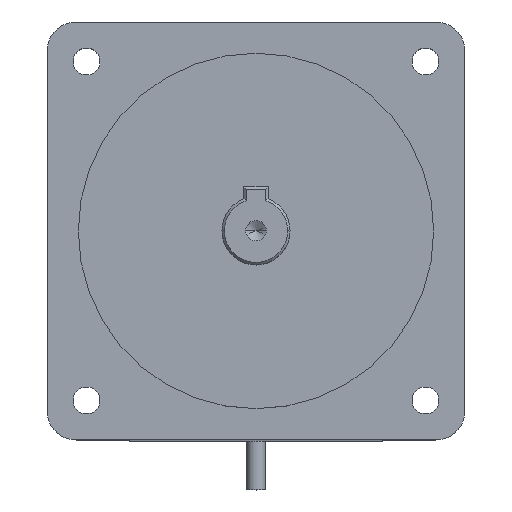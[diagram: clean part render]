
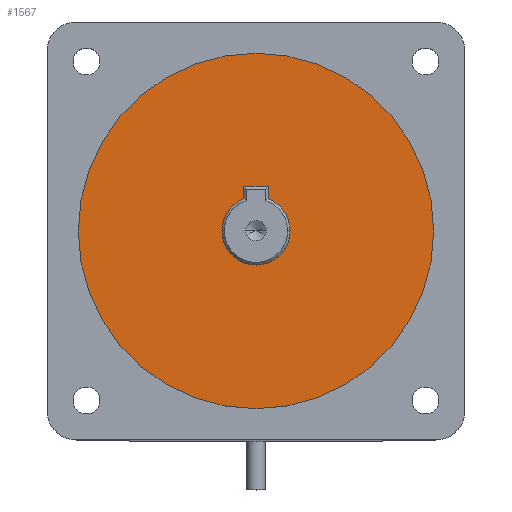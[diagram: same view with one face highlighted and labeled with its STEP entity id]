
A CAD part, top view. The second image highlights one B-rep face of the part: STEP entity #1567.
In plain terms, the highlighted planar face has unit normal (0, 0, 1).
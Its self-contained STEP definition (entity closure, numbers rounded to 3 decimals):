
#19 = CARTESIAN_POINT ( 'NONE',  ( 36.5, 0., 158.6 ) ) ;
#108 = DIRECTION ( 'NONE',  ( 0., 0., -1. ) ) ;
#111 = DIRECTION ( 'NONE',  ( 0., 0., 1. ) ) ;
#159 = DIRECTION ( 'NONE',  ( 0., 0., 1. ) ) ;
#160 = EDGE_LOOP ( 'NONE', ( #1306, #2163 ) ) ;
#168 = AXIS2_PLACEMENT_3D ( 'NONE', #1350, #2047, #466 ) ;
#219 = EDGE_LOOP ( 'NONE', ( #933, #1110 ) ) ;
#270 = DIRECTION ( 'NONE',  ( 1., 0., 0. ) ) ;
#289 = AXIS2_PLACEMENT_3D ( 'NONE', #1749, #159, #869 ) ;
#317 = AXIS2_PLACEMENT_3D ( 'NONE', #1152, #1857, #270 ) ;
#398 = CIRCLE ( 'NONE', #1689, 36.5 ) ;
#466 = DIRECTION ( 'NONE',  ( 1., 0., 0. ) ) ;
#471 = CIRCLE ( 'NONE', #1462, 7. ) ;
#637 = PLANE ( 'NONE',  #168 ) ;
#650 = CIRCLE ( 'NONE', #289, 36.5 ) ;
#656 = CARTESIAN_POINT ( 'NONE',  ( -7., 0., 158.6 ) ) ;
#818 = VERTEX_POINT ( 'NONE', #1498 ) ;
#821 = DIRECTION ( 'NONE',  ( 1., 0., 0. ) ) ;
#823 = DIRECTION ( 'NONE',  ( 1., 0., 0. ) ) ;
#869 = DIRECTION ( 'NONE',  ( 1., 0., 0. ) ) ;
#933 = ORIENTED_EDGE ( 'NONE', *, *, #1565, .T. ) ;
#1023 = CIRCLE ( 'NONE', #317, 7. ) ;
#1110 = ORIENTED_EDGE ( 'NONE', *, *, #1896, .T. ) ;
#1152 = CARTESIAN_POINT ( 'NONE',  ( 0., 0., 158.6 ) ) ;
#1178 = EDGE_CURVE ( 'NONE', #818, #1401, #398, .T. ) ;
#1306 = ORIENTED_EDGE ( 'NONE', *, *, #1178, .T. ) ;
#1307 = EDGE_CURVE ( 'NONE', #1401, #818, #650, .T. ) ;
#1350 = CARTESIAN_POINT ( 'NONE',  ( 0., 0., 158.6 ) ) ;
#1401 = VERTEX_POINT ( 'NONE', #19 ) ;
#1462 = AXIS2_PLACEMENT_3D ( 'NONE', #1697, #108, #821 ) ;
#1498 = CARTESIAN_POINT ( 'NONE',  ( -36.5, 0., 158.6 ) ) ;
#1520 = FACE_BOUND ( 'NONE', #219, .T. ) ;
#1565 = EDGE_CURVE ( 'NONE', #2015, #1966, #471, .T. ) ;
#1567 = ADVANCED_FACE ( 'NONE', ( #1520, #2221 ), #637, .T. ) ;
#1689 = AXIS2_PLACEMENT_3D ( 'NONE', #1701, #111, #823 ) ;
#1697 = CARTESIAN_POINT ( 'NONE',  ( 0., 0., 158.6 ) ) ;
#1701 = CARTESIAN_POINT ( 'NONE',  ( 0., 0., 158.6 ) ) ;
#1749 = CARTESIAN_POINT ( 'NONE',  ( 0., 0., 158.6 ) ) ;
#1857 = DIRECTION ( 'NONE',  ( 0., 0., -1. ) ) ;
#1879 = CARTESIAN_POINT ( 'NONE',  ( 7., 0., 158.6 ) ) ;
#1896 = EDGE_CURVE ( 'NONE', #1966, #2015, #1023, .T. ) ;
#1966 = VERTEX_POINT ( 'NONE', #1879 ) ;
#2015 = VERTEX_POINT ( 'NONE', #656 ) ;
#2047 = DIRECTION ( 'NONE',  ( 0., 0., 1. ) ) ;
#2163 = ORIENTED_EDGE ( 'NONE', *, *, #1307, .T. ) ;
#2221 = FACE_OUTER_BOUND ( 'NONE', #160, .T. ) ;
